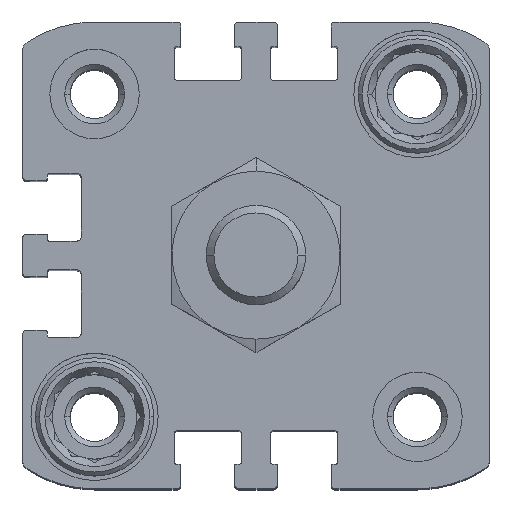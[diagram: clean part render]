
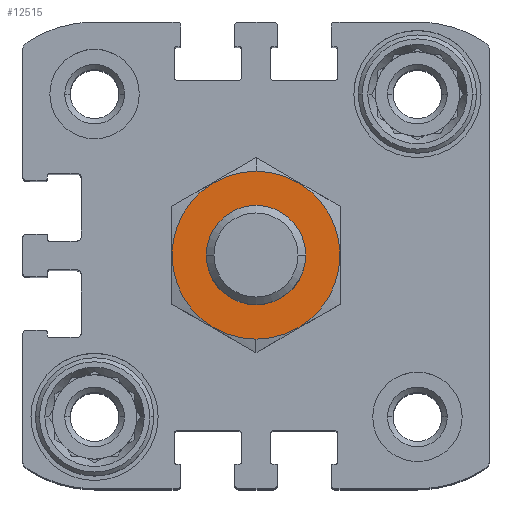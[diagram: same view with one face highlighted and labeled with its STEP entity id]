
A CAD part, top view. The second image highlights one B-rep face of the part: STEP entity #12515.
In plain terms, the highlighted planar face has unit normal (0, 0, 1) as drawn and (0, 1, 0) by its records, which use the part's own axes.
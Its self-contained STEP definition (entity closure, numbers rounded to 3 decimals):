
#49 = EDGE_LOOP ( 'NONE', ( #15097, #4182 ) ) ;
#434 = CARTESIAN_POINT ( 'NONE',  ( 0., 0., 5. ) ) ;
#605 = DIRECTION ( 'NONE',  ( 0., 0., -1. ) ) ;
#914 = ORIENTED_EDGE ( 'NONE', *, *, #8452, .F. ) ;
#1900 = EDGE_CURVE ( 'NONE', #12796, #14053, #14856, .T. ) ;
#3346 = AXIS2_PLACEMENT_3D ( 'NONE', #5808, #14585, #7088 ) ;
#3664 = CARTESIAN_POINT ( 'NONE',  ( 0., 0., -8.45 ) ) ;
#4182 = ORIENTED_EDGE ( 'NONE', *, *, #13677, .F. ) ;
#4831 = AXIS2_PLACEMENT_3D ( 'NONE', #10831, #8289, #605 ) ;
#5620 = VERTEX_POINT ( 'NONE', #9512 ) ;
#5794 = DIRECTION ( 'NONE',  ( 0., -1., 0. ) ) ;
#5808 = CARTESIAN_POINT ( 'NONE',  ( 0., 0., 0. ) ) ;
#5926 = CARTESIAN_POINT ( 'NONE',  ( 0., 0., 0. ) ) ;
#6043 = FACE_BOUND ( 'NONE', #13706, .T. ) ;
#6149 = VERTEX_POINT ( 'NONE', #434 ) ;
#6201 = CIRCLE ( 'NONE', #16097, 8.45 ) ;
#7088 = DIRECTION ( 'NONE',  ( 0., 0., 1. ) ) ;
#7165 = CIRCLE ( 'NONE', #3346, 5. ) ;
#7201 = DIRECTION ( 'NONE',  ( 0., 0., 1. ) ) ;
#7784 = CARTESIAN_POINT ( 'NONE',  ( 0., 0., 8.45 ) ) ;
#8289 = DIRECTION ( 'NONE',  ( 0., -1., 0. ) ) ;
#8452 = EDGE_CURVE ( 'NONE', #5620, #6149, #14149, .T. ) ;
#9512 = CARTESIAN_POINT ( 'NONE',  ( 0., 0., -5. ) ) ;
#9822 = AXIS2_PLACEMENT_3D ( 'NONE', #5926, #14683, #7201 ) ;
#10831 = CARTESIAN_POINT ( 'NONE',  ( 0., 0., 0. ) ) ;
#11240 = DIRECTION ( 'NONE',  ( 0., 0., -1. ) ) ;
#11342 = DIRECTION ( 'NONE',  ( 0., -1., 0. ) ) ;
#11394 = CARTESIAN_POINT ( 'NONE',  ( 0., 0., 0. ) ) ;
#12127 = AXIS2_PLACEMENT_3D ( 'NONE', #11394, #11342, #11240 ) ;
#12515 = ADVANCED_FACE ( 'NONE', ( #6043, #13160 ), #15693, .F. ) ;
#12796 = VERTEX_POINT ( 'NONE', #3664 ) ;
#12833 = ORIENTED_EDGE ( 'NONE', *, *, #14790, .F. ) ;
#13160 = FACE_OUTER_BOUND ( 'NONE', #49, .T. ) ;
#13343 = CARTESIAN_POINT ( 'NONE',  ( 0., 0., 0. ) ) ;
#13677 = EDGE_CURVE ( 'NONE', #14053, #12796, #6201, .T. ) ;
#13706 = EDGE_LOOP ( 'NONE', ( #12833, #914 ) ) ;
#14053 = VERTEX_POINT ( 'NONE', #7784 ) ;
#14149 = CIRCLE ( 'NONE', #9822, 5. ) ;
#14567 = DIRECTION ( 'NONE',  ( 0., 0., -1. ) ) ;
#14585 = DIRECTION ( 'NONE',  ( 0., 1., 0. ) ) ;
#14683 = DIRECTION ( 'NONE',  ( 0., 1., 0. ) ) ;
#14790 = EDGE_CURVE ( 'NONE', #6149, #5620, #7165, .T. ) ;
#14856 = CIRCLE ( 'NONE', #12127, 8.45 ) ;
#15097 = ORIENTED_EDGE ( 'NONE', *, *, #1900, .F. ) ;
#15693 = PLANE ( 'NONE',  #4831 ) ;
#16097 = AXIS2_PLACEMENT_3D ( 'NONE', #13343, #5794, #14567 ) ;
